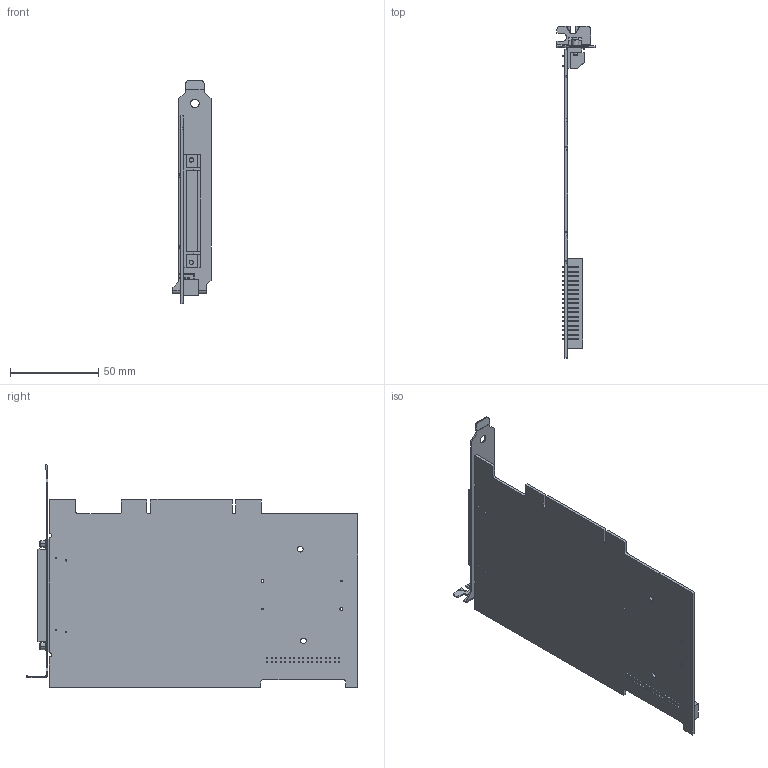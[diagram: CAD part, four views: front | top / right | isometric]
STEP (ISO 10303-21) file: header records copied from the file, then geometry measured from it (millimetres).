
FILE_DESCRIPTION((''),'2;1');
FILE_NAME('CU_PCI-6534','2009-12-28T',('jjorden'),(''),'PRO/ENGINEER BY PARAMETRIC TECHNOLOGY CORPORATION, 2006080','PRO/ENGINEER BY PARAMETRIC TECHNOLOGY CORPORATION, 2006080','');
FILE_SCHEMA(('CONFIG_CONTROL_DESIGN'));
Length unit declared in the file: inch
Products named in the file (1): CU_PCI-6534
Bounding box: 21.59 x 187.77 x 126.21 mm (x, y, z)
Volume: 35051.6 mm3; surface area: 46053.1 mm2
Topology: 1 solids, 1 shells, 836 faces, 2214 edges, 1460 vertices
Faces by surface type: plane 683, cylinder 141, cone 8, bspline 4
Entity records: 25910 total; most frequent: CARTESIAN_POINT 4668, ORIENTED_EDGE 4428, DIRECTION 4168, EDGE_CURVE 2214, VECTOR 1892, LINE 1892, VERTEX_POINT 1460, AXIS2_PLACEMENT_3D 1138
